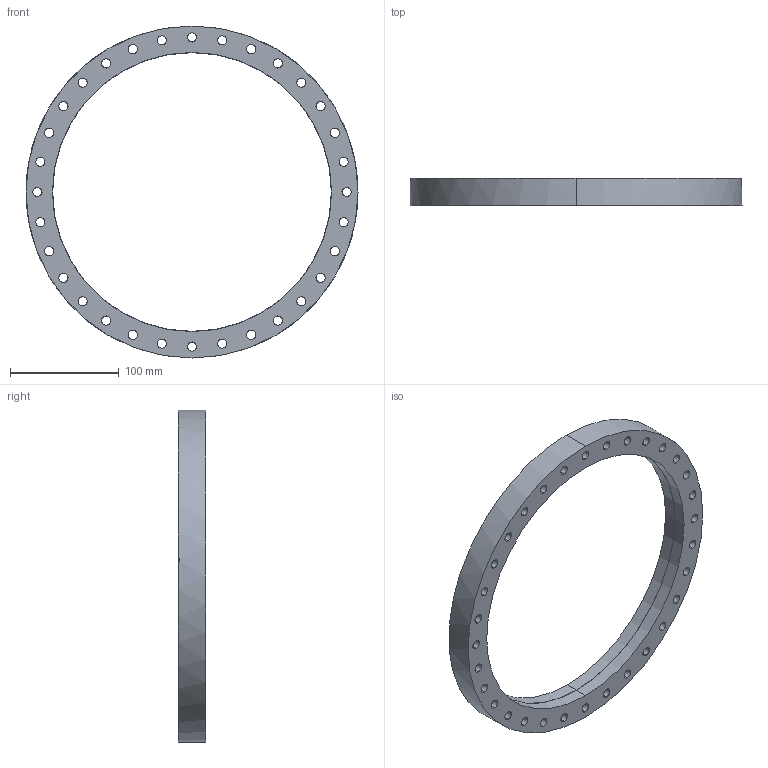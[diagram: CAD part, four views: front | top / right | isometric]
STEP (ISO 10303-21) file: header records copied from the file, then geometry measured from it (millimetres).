
FILE_DESCRIPTION (( 'STEP AP214' ), '1' );
FILE_NAME ('W6CFF250.STEP', '2021-05-17T13:47:34', ( '' ), ( '' ), 'SwSTEP 2.0', 'SolidWorks 2020', '' );
FILE_SCHEMA (( 'AUTOMOTIVE_DESIGN' ));
Length unit declared in the file: millimetre
Products named in the file (1): W6CFF250
Bounding box: 305 x 25 x 305 mm (x, y, z)
Volume: 484640.8 mm3; surface area: 105360.7 mm2
Topology: 1 solids, 1 shells, 89 faces, 248 edges, 162 vertices
Faces by surface type: cylinder 74, torus 6, plane 5, cone 4
Entity records: 3172 total; most frequent: DIRECTION 588, CARTESIAN_POINT 568, ORIENTED_EDGE 496, AXIS2_PLACEMENT_3D 254, EDGE_CURVE 248, CIRCLE 164, VERTEX_POINT 162, EDGE_LOOP 156
